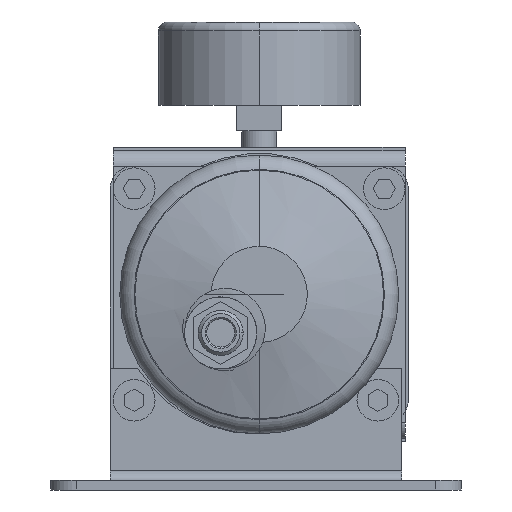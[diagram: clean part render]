
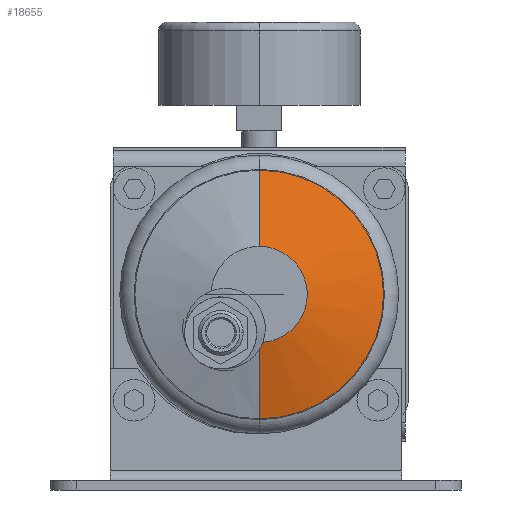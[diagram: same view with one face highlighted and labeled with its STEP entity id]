
A CAD part, front view. The second image highlights one B-rep face of the part: STEP entity #18655.
In plain terms, the highlighted conical face has half-angle 75 degrees and reference radius 27.026 mm.
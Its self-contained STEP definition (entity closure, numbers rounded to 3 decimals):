
#16896=DIRECTION('',(-0.966,0.259,0.));
#16897=VECTOR('',#16896,22.598);
#16898=CARTESIAN_POINT('',(-17.225,-130.904,
0.));
#16899=LINE('',#16898,#16897);
#16903=DIRECTION('',(0.966,0.259,0.));
#16904=VECTOR('',#16903,24.901);
#16905=CARTESIAN_POINT('',(15.,-131.5,0.));
#16906=LINE('',#16905,#16904);
#16925=CARTESIAN_POINT('',(-17.225,-130.904,
0.));
#16926=CARTESIAN_POINT('',(-17.082,-130.942,
-0.089));
#16927=CARTESIAN_POINT('',(-16.793,-131.019,
-0.262));
#16928=CARTESIAN_POINT('',(-16.348,-131.137,
-0.504));
#16929=CARTESIAN_POINT('',(-15.894,-131.256,
-0.728));
#16930=CARTESIAN_POINT('',(-15.431,-131.377,
-0.933));
#16931=CARTESIAN_POINT('',(-15.117,-131.459,
-1.057));
#16932=CARTESIAN_POINT('',(-14.958,-131.5,-1.116));
#16937=CARTESIAN_POINT('',(0.,-131.5,0.));
#16938=DIRECTION('',(0.,1.,0.));
#16939=DIRECTION('',(1.,0.,0.));
#16940=AXIS2_PLACEMENT_3D('',#16937,#16938,#16939);
#16945=CARTESIAN_POINT('',(0.,-125.055,0.));
#16946=DIRECTION('',(0.,1.,0.));
#16947=DIRECTION('',(1.,0.,0.));
#16948=AXIS2_PLACEMENT_3D('',#16945,#16946,#16947);
#17203=CARTESIAN_POINT('',(15.,-131.5,0.));
#17204=CARTESIAN_POINT('',(39.053,-125.055,0.));
#17205=VERTEX_POINT('',#17203);
#17206=VERTEX_POINT('',#17204);
#17209=CARTESIAN_POINT('',(-39.053,-125.055,
0.));
#17211=VERTEX_POINT('',#17209);
#17427=CARTESIAN_POINT('',(-14.958,-131.5,-1.116));
#17428=VERTEX_POINT('',#17427);
#17429=VERTEX_POINT('',#16925);
#18642=CARTESIAN_POINT('',(0.,-128.278,0.));
#18643=DIRECTION('',(0.,1.,0.));
#18644=DIRECTION('',(1.,0.,0.));
#18645=AXIS2_PLACEMENT_3D('',#18642,#18643,#18644);
#18646=CONICAL_SURFACE('',#18645,27.026,75.);
#18647=ORIENTED_EDGE('',*,*,#18629,.T.);
#18648=ORIENTED_EDGE('',*,*,#18598,.F.);
#18649=ORIENTED_EDGE('',*,*,#18617,.T.);
#18651=ORIENTED_EDGE('',*,*,#18650,.T.);
#18652=ORIENTED_EDGE('',*,*,#18613,.F.);
#18653=EDGE_LOOP('',(#18647,#18648,#18649,#18651,#18652));
#18654=FACE_OUTER_BOUND('',#18653,.F.);
#18655=ADVANCED_FACE('',(#18654),#18646,.T.);
#16933=B_SPLINE_CURVE_WITH_KNOTS('',3,(#16925,#16926,#16927,#16928,#16929,
#16930,#16931,#16932),.UNSPECIFIED.,.F.,.F.,(4,1,1,1,1,4),(0.,0.2,0.4,
0.6,0.8,1.),.UNSPECIFIED.);
#16941=CIRCLE('',#16940,15.);
#16949=CIRCLE('',#16948,39.053);
#18598=EDGE_CURVE('',#17205,#17428,#16941,.T.);
#18613=EDGE_CURVE('',#17429,#17211,#16899,.T.);
#18617=EDGE_CURVE('',#17205,#17206,#16906,.T.);
#18629=EDGE_CURVE('',#17429,#17428,#16933,.T.);
#18650=EDGE_CURVE('',#17206,#17211,#16949,.T.);
